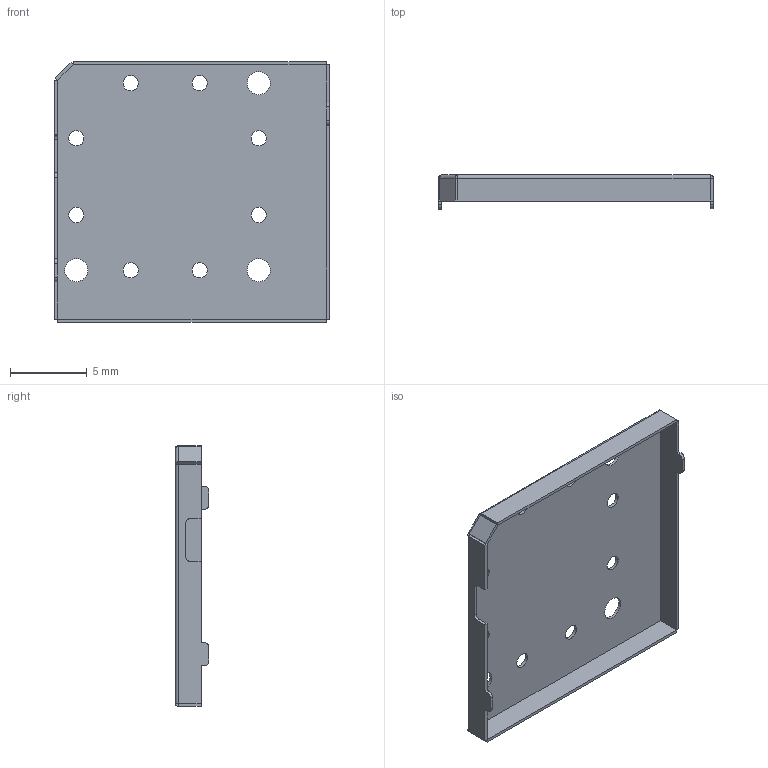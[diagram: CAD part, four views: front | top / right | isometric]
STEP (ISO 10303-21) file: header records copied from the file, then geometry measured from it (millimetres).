
FILE_DESCRIPTION((''),'2;1');
FILE_NAME('GTA02-MCS01_PRT','2008-06-30T',('GRA'),(''),'PRO/ENGINEER BY PARAMETRIC TECHNOLOGY CORPORATION, 2006170','PRO/ENGINEER BY PARAMETRIC TECHNOLOGY CORPORATION, 2006170','');
FILE_SCHEMA(('CONFIG_CONTROL_DESIGN'));
Length unit declared in the file: millimetre
Products named in the file (1): GTA02-MCS01_PRT
Bounding box: 17.9 x 2.2 x 17 mm (x, y, z)
Volume: 77.8 mm3; surface area: 803.6 mm2
Topology: 1 solids, 1 shells, 82 faces, 200 edges, 120 vertices
Faces by surface type: plane 49, cylinder 33
Entity records: 2452 total; most frequent: DIRECTION 430, CARTESIAN_POINT 402, ORIENTED_EDGE 400, EDGE_CURVE 200, AXIS2_PLACEMENT_3D 148, VECTOR 134, LINE 134, VERTEX_POINT 120
